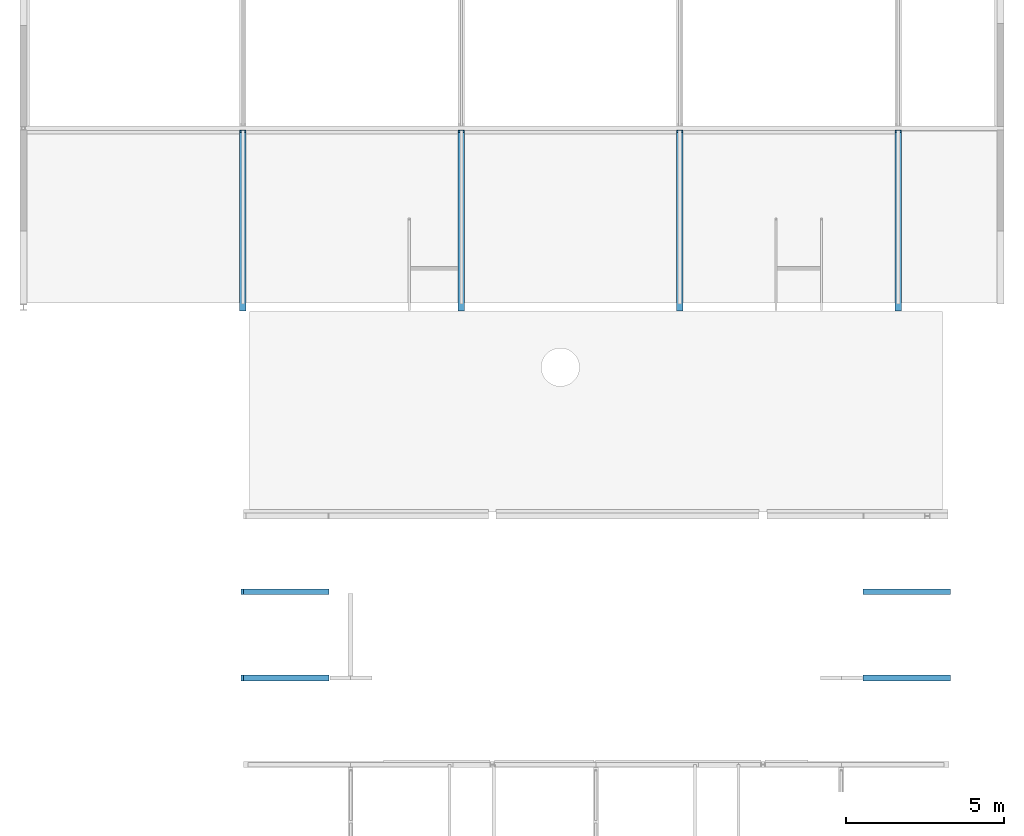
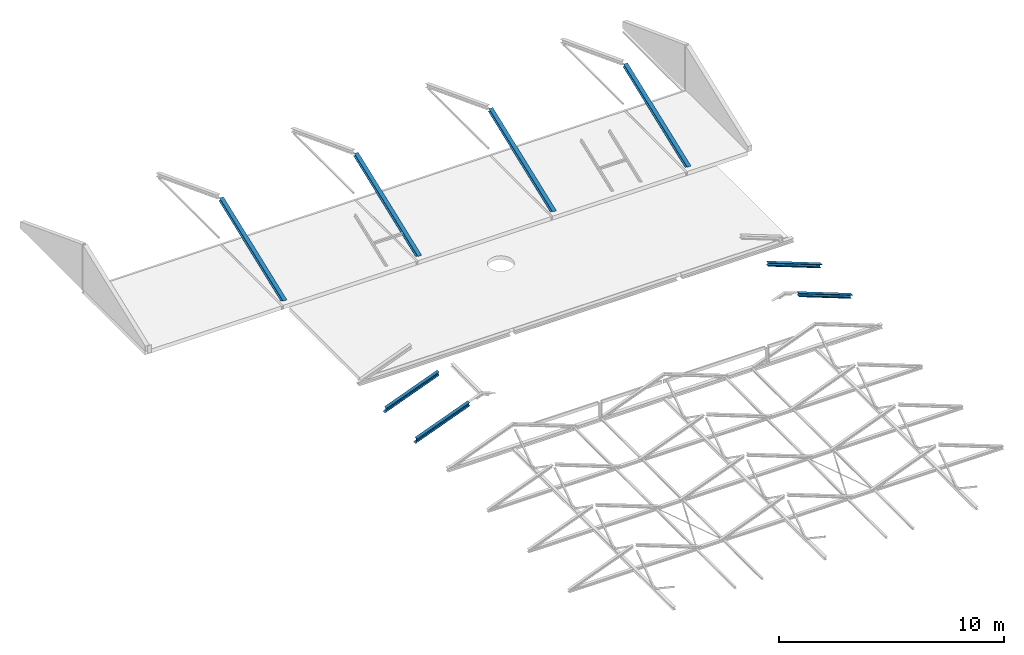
# One storey, part 10 of 10: 8 beams.
"""IFC2X3 building model written with IfcOpenShell, lengths in millimetres."""

from ifc_helpers import new_model, entity, si_unit, converted_unit, derived_unit, direction, frame, origin, place, context, subcontext, project, spatial, faceted_brep, material, type_object, element, save


model = new_model("IFC2X3")

# Units and contexts
model_context = context("Model", 3, precision=0.01, world=origin(), true_north=direction((6.123031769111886e-17, 1.0)))
body_context = subcontext(model_context, "Body", "Model", "MODEL_VIEW")
ifc_project = project(units=[si_unit("LENGTHUNIT", "METRE", prefix="MILLI"), si_unit("AREAUNIT", "SQUARE_METRE", prefix="MILLI"), si_unit("VOLUMEUNIT", "CUBIC_METRE"), converted_unit("PLANEANGLEUNIT", "DEGREE", entity("IfcPlaneAngleMeasure", 0.017453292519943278), si_unit("PLANEANGLEUNIT", "RADIAN"), dimensions=[0, 0, 0, 0, 0, 0, 0]), si_unit("MASSUNIT", "GRAM", prefix="KILO"), derived_unit("MASSDENSITYUNIT", [(si_unit("MASSUNIT", "GRAM", prefix="KILO"), 1), (si_unit("LENGTHUNIT", "METRE"), -3)]), derived_unit("IONCONCENTRATIONUNIT", [(si_unit("MASSUNIT", "GRAM", prefix="KILO"), 1), (si_unit("LENGTHUNIT", "METRE"), -3)]), derived_unit("MOMENTOFINERTIAUNIT", [(si_unit("LENGTHUNIT", "METRE"), 4)]), si_unit("TIMEUNIT", "SECOND"), si_unit("FREQUENCYUNIT", "HERTZ"), si_unit("THERMODYNAMICTEMPERATUREUNIT", "DEGREE_CELSIUS"), derived_unit("THERMALTRANSMITTANCEUNIT", [(si_unit("MASSUNIT", "GRAM", prefix="KILO"), 1), (si_unit("THERMODYNAMICTEMPERATUREUNIT", "KELVIN"), -1), (si_unit("TIMEUNIT", "SECOND"), -3)]), derived_unit("THERMALCONDUCTANCEUNIT", [(si_unit("MASSUNIT", "GRAM", prefix="KILO"), 1), (si_unit("THERMODYNAMICTEMPERATUREUNIT", "KELVIN"), -1), (si_unit("TIMEUNIT", "SECOND"), -3), (si_unit("LENGTHUNIT", "METRE"), 1)]), derived_unit("VOLUMETRICFLOWRATEUNIT", [(si_unit("LENGTHUNIT", "METRE", prefix="DECI"), 3), (si_unit("TIMEUNIT", "SECOND"), -1)]), derived_unit("MASSFLOWRATEUNIT", [(si_unit("MASSUNIT", "GRAM", prefix="KILO"), 1), (si_unit("TIMEUNIT", "SECOND"), -1)]), derived_unit("ROTATIONALFREQUENCYUNIT", [(si_unit("TIMEUNIT", "SECOND"), -1)]), si_unit("ELECTRICCURRENTUNIT", "AMPERE"), si_unit("ELECTRICVOLTAGEUNIT", "VOLT"), si_unit("POWERUNIT", "WATT"), si_unit("FORCEUNIT", "NEWTON", prefix="KILO"), si_unit("ILLUMINANCEUNIT", "LUX"), si_unit("LUMINOUSFLUXUNIT", "LUMEN"), si_unit("LUMINOUSINTENSITYUNIT", "CANDELA"), si_unit("ENERGYUNIT", "JOULE"), derived_unit("USERDEFINED", [(si_unit("MASSUNIT", "GRAM", prefix="KILO"), -1), (si_unit("LENGTHUNIT", "METRE"), -2), (si_unit("TIMEUNIT", "SECOND"), 3), (si_unit("LUMINOUSFLUXUNIT", "LUMEN"), 1)]), derived_unit("USERDEFINED", [(si_unit("MASSUNIT", "GRAM", prefix="KILO"), 1), (si_unit("TIMEUNIT", "SECOND"), -3), (si_unit("LENGTHUNIT", "METRE"), 3), (si_unit("ELECTRICCURRENTUNIT", "AMPERE"), -2)]), derived_unit("SOUNDPOWERUNIT", [(si_unit("MASSUNIT", "GRAM", prefix="KILO"), 1), (si_unit("TIMEUNIT", "SECOND"), -3), (si_unit("LENGTHUNIT", "METRE"), 2)]), derived_unit("SOUNDPRESSUREUNIT", [(si_unit("MASSUNIT", "GRAM", prefix="KILO"), 1), (si_unit("LENGTHUNIT", "METRE"), -1), (si_unit("TIMEUNIT", "SECOND"), -2)]), derived_unit("LINEARVELOCITYUNIT", [(si_unit("LENGTHUNIT", "METRE"), 1), (si_unit("TIMEUNIT", "SECOND"), -1)]), si_unit("PRESSUREUNIT", "PASCAL"), derived_unit("USERDEFINED", [(si_unit("MASSUNIT", "GRAM", prefix="KILO"), 1), (si_unit("LENGTHUNIT", "METRE"), -2), (si_unit("TIMEUNIT", "SECOND"), -2)]), derived_unit("LINEARFORCEUNIT", [(si_unit("MASSUNIT", "GRAM", prefix="KILO"), 1), (si_unit("TIMEUNIT", "SECOND"), -2)]), derived_unit("PLANARFORCEUNIT", [(si_unit("MASSUNIT", "GRAM", prefix="KILO"), 1), (si_unit("LENGTHUNIT", "METRE"), -1), (si_unit("TIMEUNIT", "SECOND"), -2)]), derived_unit("SPECIFICHEATCAPACITYUNIT", [(si_unit("THERMODYNAMICTEMPERATUREUNIT", "KELVIN"), -1), (si_unit("LENGTHUNIT", "METRE"), 2), (si_unit("TIMEUNIT", "SECOND"), -2)]), derived_unit("HEATFLUXDENSITYUNIT", [(si_unit("MASSUNIT", "GRAM", prefix="KILO"), 1), (si_unit("TIMEUNIT", "SECOND"), -3)]), derived_unit("HEATINGVALUEUNIT", [(si_unit("LENGTHUNIT", "METRE"), 2), (si_unit("TIMEUNIT", "SECOND"), -2)]), derived_unit("VAPORPERMEABILITYUNIT", [(si_unit("LENGTHUNIT", "METRE"), -1), (si_unit("TIMEUNIT", "SECOND"), 1)]), derived_unit("DYNAMICVISCOSITYUNIT", [(si_unit("MASSUNIT", "GRAM", prefix="KILO"), 1), (si_unit("TIMEUNIT", "SECOND"), -1), (si_unit("LENGTHUNIT", "METRE"), -1)]), derived_unit("THERMALEXPANSIONCOEFFICIENTUNIT", [(si_unit("THERMODYNAMICTEMPERATUREUNIT", "KELVIN"), -1)]), derived_unit("MODULUSOFELASTICITYUNIT", [(si_unit("MASSUNIT", "GRAM", prefix="KILO"), 1), (si_unit("LENGTHUNIT", "METRE"), -1), (si_unit("TIMEUNIT", "SECOND"), -2)]), derived_unit("ISOTHERMALMOISTURECAPACITYUNIT", [(si_unit("MASSUNIT", "GRAM", prefix="KILO"), -1), (si_unit("LENGTHUNIT", "METRE"), 3)]), derived_unit("MOISTUREDIFFUSIVITYUNIT", [(si_unit("TIMEUNIT", "SECOND"), -1), (si_unit("LENGTHUNIT", "METRE"), 2)]), derived_unit("MASSPERLENGTHUNIT", [(si_unit("MASSUNIT", "GRAM", prefix="KILO"), 1), (si_unit("LENGTHUNIT", "METRE"), -1)]), derived_unit("THERMALRESISTANCEUNIT", [(si_unit("MASSUNIT", "GRAM", prefix="KILO"), -1), (si_unit("TIMEUNIT", "SECOND"), 3), (si_unit("THERMODYNAMICTEMPERATUREUNIT", "KELVIN"), 1)]), derived_unit("ACCELERATIONUNIT", [(si_unit("LENGTHUNIT", "METRE"), 1), (si_unit("TIMEUNIT", "SECOND"), -2)]), derived_unit("ANGULARVELOCITYUNIT", [(si_unit("TIMEUNIT", "SECOND"), -1), (si_unit("PLANEANGLEUNIT", "RADIAN"), 1)]), derived_unit("LINEARSTIFFNESSUNIT", [(si_unit("MASSUNIT", "GRAM", prefix="KILO"), 1), (si_unit("TIMEUNIT", "SECOND"), -2)]), derived_unit("WARPINGCONSTANTUNIT", [(si_unit("LENGTHUNIT", "METRE"), 6)]), derived_unit("LINEARMOMENTUNIT", [(si_unit("MASSUNIT", "GRAM", prefix="KILO"), 1), (si_unit("LENGTHUNIT", "METRE"), 1), (si_unit("TIMEUNIT", "SECOND"), -2)]), derived_unit("TORQUEUNIT", [(si_unit("MASSUNIT", "GRAM", prefix="KILO"), 1), (si_unit("LENGTHUNIT", "METRE"), 2), (si_unit("TIMEUNIT", "SECOND"), -2)])], contexts=[model_context])

# Site, building, storey
site_placement = place(None, origin())
site = spatial("IfcSite", under=ifc_project, at=site_placement, Name="Default", CompositionType="ELEMENT")
building_placement = place(site_placement, origin())
building = spatial("IfcBuilding", under=site, at=building_placement, CompositionType="ELEMENT")
storey_placement = place(building_placement, frame((0.0, 0.0, 10840.0)))
storey = spatial("IfcBuildingStorey", under=building, at=storey_placement, Name="V3 dakvloer", CompositionType="ELEMENT", Elevation=10839.99999999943)

# Beams
ifc_material = material(Name="Metal - Steel - S235 JRG2 (standaard)")
beam_type_1 = type_object("IfcBeamType", Name="btl_staal - HE(a-b-m):HEA200.", PredefinedType="NOTDEFINED")
beam_1_placement = place(storey_placement, frame((6725.000781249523, 31820.474215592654, 298.633159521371), z_axis=(0.0, -0.3578727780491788, 0.9337703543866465), x_axis=(0.0, -0.9337703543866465, -0.3578727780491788)))
element("IfcBeam", 1, at=beam_1_placement, inside=storey, type_object=beam_type_1, material=ifc_material, Name="btl_staal - HE(a-b-m):HEA200.", ObjectType="btl_staal - HE(a-b-m):HEA200.", context=body_context, shape_type="Brep", body=[
    faceted_brep([(-6089.746902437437, 200.0, -61.610595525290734), (-6089.746902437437, 200.0, -71.61059552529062), (-6089.746902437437, 0.0, -71.61059552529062), (-6089.746902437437, 0.0, -61.610595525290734), (-6089.746902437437, 96.75000000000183, -61.610595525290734), (-6089.746902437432, 96.75000000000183, 108.38940447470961), (-6089.746902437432, 0.0, 108.38940447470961), (-6089.7469024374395, 0.0, 118.38940447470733), (-6089.7469024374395, 200.0, 118.38940447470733), (-6089.746902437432, 200.0, 108.38940447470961), (-6089.746902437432, 103.25000000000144, 108.38940447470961), (-6089.746902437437, 103.25000000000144, -61.610595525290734), (-179.407690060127, 103.25000000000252, -61.610595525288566), (-179.4076900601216, 200.0, -61.610595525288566), (-52.92060036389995, 103.25000000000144, 108.38940447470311), (-52.92060036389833, 200.0, 108.38940447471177), (-45.442136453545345, 200.0, 118.44053987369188), (-45.48018332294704, 0.0, 118.38940447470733), (-45.373409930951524, 200.0, 118.3894044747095), (-52.92060036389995, 0.0, 108.38940447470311), (-45.373409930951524, 0.0, 118.3894044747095), (-52.92060036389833, 96.75000000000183, 108.38940447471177), (-179.40769006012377, 96.75000000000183, -61.61059552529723), (-179.407690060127, 0.0, -61.610595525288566), (-186.84810710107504, 0.0, -71.6105955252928), (-186.84810710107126, 200.0, -71.61059552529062), (-45.48018332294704, 200.0, 118.38940447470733), (-45.442136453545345, 0.0, 118.44053987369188)], [[[0, 1, 2, 3, 4, 5, 6, 7, 8, 9, 10, 11]], [[0, 11, 12, 13]], [[11, 10, 14, 12]], [[10, 9, 15, 14]], [[9, 8, 16, 15]], [[8, 7, 17, 18]], [[7, 6, 19, 20]], [[6, 5, 21, 19]], [[5, 4, 22, 21]], [[4, 3, 23, 22]], [[3, 2, 24, 23]], [[2, 1, 25, 24]], [[1, 0, 13, 25]], [[13, 12, 14, 15, 26, 27, 19, 21, 22, 23, 24, 25]]]),
])
beam_2_placement = place(storey_placement, frame((13625.000781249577, 31820.47421559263, 298.63315952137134), z_axis=(0.0, -0.3578727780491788, 0.9337703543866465), x_axis=(0.0, -0.9337703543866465, -0.3578727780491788)))
element("IfcBeam", 2, at=beam_2_placement, inside=storey, type_object=beam_type_1, material=ifc_material, Name="btl_staal - HE(a-b-m):HEA200.", ObjectType="btl_staal - HE(a-b-m):HEA200.", context=body_context, shape_type="Brep", body=[
    faceted_brep([(-6089.746902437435, 200.0, -61.610595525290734), (-6089.746902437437, 200.0, -71.6105955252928), (-6089.746902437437, 0.0, -71.6105955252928), (-6089.746902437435, 0.0, -61.610595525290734), (-6089.746902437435, 96.7499999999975, -61.610595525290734), (-6089.746902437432, 96.7499999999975, 108.38940447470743), (-6089.746902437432, 0.0, 108.38940447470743), (-6089.746902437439, 0.0, 118.38940447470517), (-6089.746902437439, 200.0, 118.38940447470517), (-6089.746902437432, 200.0, 108.38940447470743), (-6089.746902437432, 103.24999999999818, 108.38940447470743), (-6089.746902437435, 103.24999999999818, -61.610595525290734), (-179.40769006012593, 103.24999999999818, -61.610595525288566), (-179.40769006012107, 200.0, -61.610595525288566), (-52.92060036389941, 103.24999999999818, 108.38940447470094), (-52.92060036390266, 200.0, 108.38940447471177), (-45.44213645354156, 200.0, 118.44053987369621), (-45.480183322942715, 0.0, 118.3894044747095), (-45.37340993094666, 200.0, 118.3894044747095), (-52.92060036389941, 0.0, 108.38940447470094), (-45.37340993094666, 0.0, 118.3894044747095), (-52.92060036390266, 96.7499999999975, 108.38940447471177), (-179.40769006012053, 96.7499999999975, -61.610595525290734), (-179.40769006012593, 0.0, -61.610595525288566), (-186.8481071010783, 0.0, -71.61059552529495), (-186.84810710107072, 200.0, -71.61059552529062), (-45.480183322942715, 200.0, 118.3894044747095), (-45.44213645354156, 0.0, 118.44053987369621)], [[[0, 1, 2, 3, 4, 5, 6, 7, 8, 9, 10, 11]], [[0, 11, 12, 13]], [[11, 10, 14, 12]], [[10, 9, 15, 14]], [[9, 8, 16, 15]], [[8, 7, 17, 18]], [[7, 6, 19, 20]], [[6, 5, 21, 19]], [[5, 4, 22, 21]], [[4, 3, 23, 22]], [[3, 2, 24, 23]], [[2, 1, 25, 24]], [[1, 0, 13, 25]], [[13, 12, 14, 15, 26, 27, 19, 21, 22, 23, 24, 25]]]),
])
beam_3_placement = place(storey_placement, frame((20524.984654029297, 31820.474215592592, 298.6331595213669), z_axis=(0.0, -0.3578727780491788, 0.9337703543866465), x_axis=(0.0, -0.9337703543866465, -0.3578727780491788)))
element("IfcBeam", 3, at=beam_3_placement, inside=storey, type_object=beam_type_1, material=ifc_material, Name="btl_staal - HE(a-b-m):HEA200.", ObjectType="btl_staal - HE(a-b-m):HEA200.", context=body_context, shape_type="Brep", body=[
    faceted_brep([(-6089.746902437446, 200.0, -61.610595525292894), (-6089.746902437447, 200.0, -71.6105955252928), (-6089.746902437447, 0.0, -71.6105955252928), (-6089.746902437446, 0.0, -61.610595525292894), (-6089.746902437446, 96.75000000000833, -61.610595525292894), (-6089.746902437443, 96.75000000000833, 108.38940447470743), (-6089.746902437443, 0.0, 108.38940447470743), (-6089.746902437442, 0.0, 118.38940447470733), (-6089.746902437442, 200.0, 118.38940447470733), (-6089.746902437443, 200.0, 108.38940447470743), (-6089.746902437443, 103.25000000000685, 108.38940447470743), (-6089.746902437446, 103.25000000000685, -61.610595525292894), (-179.40769006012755, 103.25000000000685, -61.610595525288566), (-179.40769006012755, 200.0, -61.610595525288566), (-52.92060036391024, 103.25000000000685, 108.38940447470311), (-52.92060036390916, 200.0, 108.38940447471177), (-45.44213645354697, 200.0, 118.44053987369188), (-45.48018332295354, 0.0, 118.38940447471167), (-45.37340993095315, 200.0, 118.3894044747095), (-52.92060036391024, 0.0, 108.38940447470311), (-45.37340993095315, 0.0, 118.3894044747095), (-52.92060036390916, 96.750000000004, 108.38940447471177), (-179.40769006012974, 96.75000000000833, -61.61059552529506), (-179.40769006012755, 0.0, -61.610595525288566), (-186.84810710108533, 0.0, -71.61059552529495), (-186.84810710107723, 200.0, -71.61059552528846), (-45.48018332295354, 200.0, 118.38940447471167), (-45.44213645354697, 0.0, 118.44053987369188)], [[[0, 1, 2, 3, 4, 5, 6, 7, 8, 9, 10, 11]], [[0, 11, 12, 13]], [[11, 10, 14, 12]], [[10, 9, 15, 14]], [[9, 8, 16, 15]], [[8, 7, 17, 18]], [[7, 6, 19, 20]], [[6, 5, 21, 19]], [[5, 4, 22, 21]], [[4, 3, 23, 22]], [[3, 2, 24, 23]], [[2, 1, 25, 24]], [[1, 0, 13, 25]], [[13, 12, 14, 15, 26, 27, 19, 21, 22, 23, 24, 25]]]),
])
beam_4_placement = place(storey_placement, frame((27424.97952010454, 31820.474215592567, 298.63315952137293), z_axis=(0.0, -0.3578727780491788, 0.9337703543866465), x_axis=(0.0, -0.9337703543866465, -0.3578727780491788)))
element("IfcBeam", 4, at=beam_4_placement, inside=storey, type_object=beam_type_1, material=ifc_material, Name="btl_staal - HE(a-b-m):HEA200.", ObjectType="btl_staal - HE(a-b-m):HEA200.", context=body_context, shape_type="Brep", body=[
    faceted_brep([(-6089.746902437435, 200.0, -61.61059552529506), (-6089.746902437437, 200.0, -71.61059552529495), (-6089.746902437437, 0.0, -71.61059552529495), (-6089.746902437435, 0.0, -61.61059552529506), (-6089.746902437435, 96.750000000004, -61.61059552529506), (-6089.74690243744, 96.750000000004, 108.38940447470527), (-6089.74690243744, 0.0, 108.38940447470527), (-6089.7469024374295, 0.0, 118.38940447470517), (-6089.7469024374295, 200.0, 118.38940447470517), (-6089.74690243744, 200.0, 108.38940447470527), (-6089.74690243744, 103.25000000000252, 108.38940447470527), (-6089.746902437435, 103.25000000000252, -61.61059552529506), (-179.40769006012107, 103.25000000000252, -61.610595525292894), (-179.40769006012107, 200.0, -61.610595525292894), (-52.920600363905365, 103.25000000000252, 108.38940447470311), (-52.92060036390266, 200.0, 108.38940447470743), (-45.44213645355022, 200.0, 118.44053987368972), (-45.480183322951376, 0.0, 118.38940447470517), (-45.373409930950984, 200.0, 118.38940447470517), (-52.920600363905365, 0.0, 108.38940447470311), (-45.373409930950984, 0.0, 118.38940447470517), (-52.92060036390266, 96.74999999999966, 108.38940447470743), (-179.40769006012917, 96.750000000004, -61.61059552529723), (-179.40769006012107, 0.0, -61.610595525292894), (-186.84810710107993, 0.0, -71.61059552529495), (-186.84810710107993, 200.0, -71.6105955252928), (-45.480183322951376, 200.0, 118.38940447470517), (-45.44213645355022, 0.0, 118.44053987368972)], [[[0, 1, 2, 3, 4, 5, 6, 7, 8, 9, 10, 11]], [[0, 11, 12, 13]], [[11, 10, 14, 12]], [[10, 9, 15, 14]], [[9, 8, 16, 15]], [[8, 7, 17, 18]], [[7, 6, 19, 20]], [[6, 5, 21, 19]], [[5, 4, 22, 21]], [[4, 3, 23, 22]], [[3, 2, 24, 23]], [[2, 1, 25, 24]], [[1, 0, 13, 25]], [[13, 12, 14, 15, 26, 27, 19, 21, 22, 23, 24, 25]]]),
])
beam_type_2 = type_object("IfcBeamType", Name="btl_staal - HE(a-b-m):HEB180", PredefinedType="NOTDEFINED")
beam_5_placement = place(storey_placement, frame((6760.363915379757, 20137.92931863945, -220.6354230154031), z_axis=(-0.35818409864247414, 0.0, 0.9336509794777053), x_axis=(0.9336509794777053, 0.0, 0.35818409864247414)))
element("IfcBeam", 5, at=beam_5_placement, inside=storey, type_object=beam_type_2, material=ifc_material, Name="btl_staal - HE(a-b-m):HEB180", ObjectType="btl_staal - HE(a-b-m):HEB180", context=body_context, shape_type="Brep", body=[
    faceted_brep([(3.0097704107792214, 180.0, -1.1546626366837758), (3.0097704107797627, 0.0, -1.1546626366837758), (3.0097704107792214, 0.0, 7.845337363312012), (3.0097704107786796, 180.0, 7.845337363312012), (2989.651782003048, 94.2500000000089, 12.845337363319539), (2989.651782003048, 180.0, 12.845337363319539), (98.52813985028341, 180.0, 12.845337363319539), (98.52813985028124, 94.2500000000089, 12.845337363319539), (3047.964774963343, 94.2500000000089, 164.84533736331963), (156.84113281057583, 94.2500000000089, 164.84533736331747), (3047.964774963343, 180.0, 164.84533736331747), (156.84113281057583, 180.0, 164.84533736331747), (3053.335708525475, 180.0, 178.84533736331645), (162.21206637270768, 180.0, 178.84533736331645), (3053.335708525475, 0.0, 178.84533736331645), (162.21206637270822, 0.0, 178.84533736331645), (3047.964774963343, 0.0, 164.84533736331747), (156.84113281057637, 0.0, 164.84533736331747), (3047.964774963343, 85.75000000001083, 164.84533736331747), (156.84113281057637, 85.7500000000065, 164.84533736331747), (2989.651782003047, 85.7500000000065, 12.845337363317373), (98.52813985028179, 85.7500000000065, 12.845337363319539), (2989.651782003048, 0.0, 12.845337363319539), (98.52813985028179, 0.0, 12.845337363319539), (2984.280848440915, 0.0, -1.15466263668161), (96.60994929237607, 0.0, 7.845337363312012), (2984.280848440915, 180.0, -1.15466263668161), (96.60994929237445, 180.0, 7.845337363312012)], [[[0, 1, 2, 3]], [[4, 5, 6, 7]], [[8, 4, 7, 9]], [[10, 8, 9, 11]], [[12, 10, 11, 13]], [[14, 12, 13, 15]], [[16, 14, 15, 17]], [[18, 16, 17, 19]], [[20, 18, 19, 21]], [[22, 20, 21, 23]], [[1, 24, 22, 23, 25, 2]], [[1, 0, 26, 24]], [[26, 0, 3, 27, 6, 5]], [[25, 27, 3, 2]], [[27, 25, 23, 21, 19, 17, 15, 13, 11, 9, 7, 6]], [[5, 4, 8, 10, 12, 14, 16, 18, 20, 22, 24, 26]]]),
])
beam_6_placement = place(storey_placement, frame((26402.836255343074, 20137.92931863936, 1040.0), z_axis=(0.358184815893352, 0.0, 0.9336507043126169), x_axis=(0.9336507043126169, 0.0, -0.358184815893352)))
element("IfcBeam", 6, at=beam_6_placement, inside=storey, type_object=beam_type_2, material=ifc_material, Name="btl_staal - HE(a-b-m):HEB180", ObjectType="btl_staal - HE(a-b-m):HEB180", context=body_context, shape_type="Brep", body=[
    faceted_brep([(2960.155923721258, 180.0, 0.0), (2960.1559237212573, 0.0, 0.0), (2960.1559237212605, 0.0, -9.0), (2960.155923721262, 180.0, -9.0), (63.684072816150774, 180.0, -166.0), (63.684072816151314, 94.25000000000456, -166.0), (2951.4475092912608, 94.25000000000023, -166.0), (2951.4475092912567, 180.0, -166.0), (5.370945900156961, 94.25000000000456, -14.0), (2893.1343823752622, 94.25000000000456, -14.0), (5.370945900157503, 180.0, -14.0), (2893.1343823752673, 180.0, -14.0), (0.0, 180.0, 0.0), (2891.2161874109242, 180.0, -9.0), (0.0, 0.0, 0.0), (5.370945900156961, 0.0, -14.0), (2893.134382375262, 0.0, -14.0), (2891.216187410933, 0.0, -9.0), (5.370945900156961, 85.75000000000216, -14.0), (2893.1343823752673, 85.75000000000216, -14.0), (63.684072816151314, 85.75000000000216, -166.0), (2951.4475092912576, 85.75000000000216, -166.0), (63.684072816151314, 0.0, -166.0), (2951.44750929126, 0.0, -166.0), (69.05501871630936, 0.0, -180.0), (2956.8184551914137, 0.0, -180.0), (69.05501871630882, 180.0, -180.0), (2956.818455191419, 180.0, -180.0)], [[[0, 1, 2, 3]], [[4, 5, 6, 7]], [[5, 8, 9, 6]], [[8, 10, 11, 9]], [[10, 12, 0, 3, 13, 11]], [[1, 0, 12, 14]], [[14, 15, 16, 17, 2, 1]], [[15, 18, 19, 16]], [[18, 20, 21, 19]], [[20, 22, 23, 21]], [[22, 24, 25, 23]], [[24, 26, 27, 25]], [[26, 4, 7, 27]], [[5, 4, 26, 24, 22, 20, 18, 15, 14, 12, 10, 8]], [[17, 13, 3, 2]], [[13, 17, 16, 19, 21, 23, 25, 27, 7, 6, 9, 11]]]),
])
beam_7_placement = place(storey_placement, frame((6760.363915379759, 22861.253624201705, -220.63542301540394), z_axis=(-0.35818409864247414, 0.0, 0.9336509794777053), x_axis=(0.9336509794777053, 0.0, 0.35818409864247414)))
element("IfcBeam", 7, at=beam_7_placement, inside=storey, type_object=beam_type_2, material=ifc_material, Name="btl_staal - HE(a-b-m):HEB180", ObjectType="btl_staal - HE(a-b-m):HEB180", context=body_context, shape_type="Brep", body=[
    faceted_brep([(3.0097704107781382, 180.0, -1.15466263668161), (3.0097704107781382, 0.0, -1.15466263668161), (3.009770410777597, 0.0, 7.845337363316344), (3.0097704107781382, 180.0, 7.8453373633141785), (2989.651782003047, 94.2500000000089, 12.845337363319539), (2989.651782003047, 180.0, 12.845337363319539), (98.52813985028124, 180.0, 12.845337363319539), (98.52813985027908, 94.2500000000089, 12.845337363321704), (3047.9647749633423, 94.2500000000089, 164.84533736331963), (156.8411328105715, 94.2500000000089, 164.84533736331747), (3047.964774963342, 180.0, 164.84533736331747), (156.8411328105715, 180.0, 164.84533736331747), (3053.3357085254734, 180.0, 178.84533736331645), (162.21206637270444, 180.0, 178.8453373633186), (3053.335708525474, 0.0, 178.84533736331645), (162.21206637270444, 0.0, 178.8453373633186), (3047.9647749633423, 0.0, 164.84533736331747), (156.8411328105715, 0.0, 164.84533736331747), (3047.9647749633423, 85.75000000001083, 164.84533736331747), (156.8411328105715, 85.7500000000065, 164.84533736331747), (2989.651782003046, 85.7500000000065, 12.845337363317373), (98.52813985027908, 85.7500000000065, 12.845337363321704), (2989.651782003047, 0.0, 12.845337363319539), (98.52813985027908, 0.0, 12.845337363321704), (2984.2808484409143, 0.0, -1.15466263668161), (96.60994929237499, 0.0, 7.8453373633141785), (2984.2808484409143, 180.0, -1.15466263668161), (96.60994929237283, 180.0, 7.845337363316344)], [[[0, 1, 2, 3]], [[4, 5, 6, 7]], [[8, 4, 7, 9]], [[10, 8, 9, 11]], [[12, 10, 11, 13]], [[14, 12, 13, 15]], [[16, 14, 15, 17]], [[18, 16, 17, 19]], [[20, 18, 19, 21]], [[22, 20, 21, 23]], [[1, 24, 22, 23, 25, 2]], [[1, 0, 26, 24]], [[26, 0, 3, 27, 6, 5]], [[25, 27, 3, 2]], [[27, 25, 23, 21, 19, 17, 15, 13, 11, 9, 7, 6]], [[5, 4, 8, 10, 12, 14, 16, 18, 20, 22, 24, 26]]]),
])
beam_8_placement = place(storey_placement, frame((26402.836255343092, 22861.253624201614, 1040.0), z_axis=(0.358184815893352, 0.0, 0.9336507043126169), x_axis=(0.9336507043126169, 0.0, -0.358184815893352)))
element("IfcBeam", 8, at=beam_8_placement, inside=storey, type_object=beam_type_2, material=ifc_material, Name="btl_staal - HE(a-b-m):HEB180", ObjectType="btl_staal - HE(a-b-m):HEB180", context=body_context, shape_type="Brep", body=[
    faceted_brep([(2960.15592372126, 180.0, 0.0), (2960.1559237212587, 0.0, 0.0), (2960.1559237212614, 0.0, -9.0), (2960.155923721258, 180.0, -9.0), (63.68407281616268, 180.0, -166.0), (63.68407281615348, 94.25000000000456, -166.0), (2951.4475092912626, 94.25000000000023, -166.0), (2951.447509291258, 180.0, -166.0), (5.370945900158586, 94.25000000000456, -14.0), (2893.134382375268, 94.25000000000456, -14.0), (5.370945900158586, 180.0, -14.0), (2893.1343823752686, 180.0, -14.0), (0.0, 180.0, 0.0), (2891.2161874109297, 180.0, -9.0), (0.0, 0.0, 0.0), (5.370945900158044, 0.0, -14.0), (2893.1343823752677, 0.0, -14.0), (2891.2161874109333, 0.0, -9.0), (5.370945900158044, 85.75000000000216, -14.0), (2893.1343823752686, 85.75000000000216, -14.0), (63.68407281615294, 85.75000000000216, -166.0), (2951.447509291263, 85.75000000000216, -166.0), (63.68407281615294, 0.0, -166.0), (2951.4475092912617, 0.0, -166.0), (69.05501871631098, 0.0, -180.0), (2956.8184551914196, 0.0, -180.0), (69.05501871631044, 180.0, -180.0), (2956.8184551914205, 180.0, -180.0)], [[[0, 1, 2, 3]], [[4, 5, 6, 7]], [[5, 8, 9, 6]], [[8, 10, 11, 9]], [[10, 12, 0, 3, 13, 11]], [[1, 0, 12, 14]], [[14, 15, 16, 17, 2, 1]], [[15, 18, 19, 16]], [[18, 20, 21, 19]], [[20, 22, 23, 21]], [[22, 24, 25, 23]], [[24, 26, 27, 25]], [[26, 4, 7, 27]], [[5, 4, 26, 24, 22, 20, 18, 15, 14, 12, 10, 8]], [[17, 13, 3, 2]], [[13, 17, 16, 19, 21, 23, 25, 27, 7, 6, 9, 11]]]),
])

save(model, "model.ifc")
